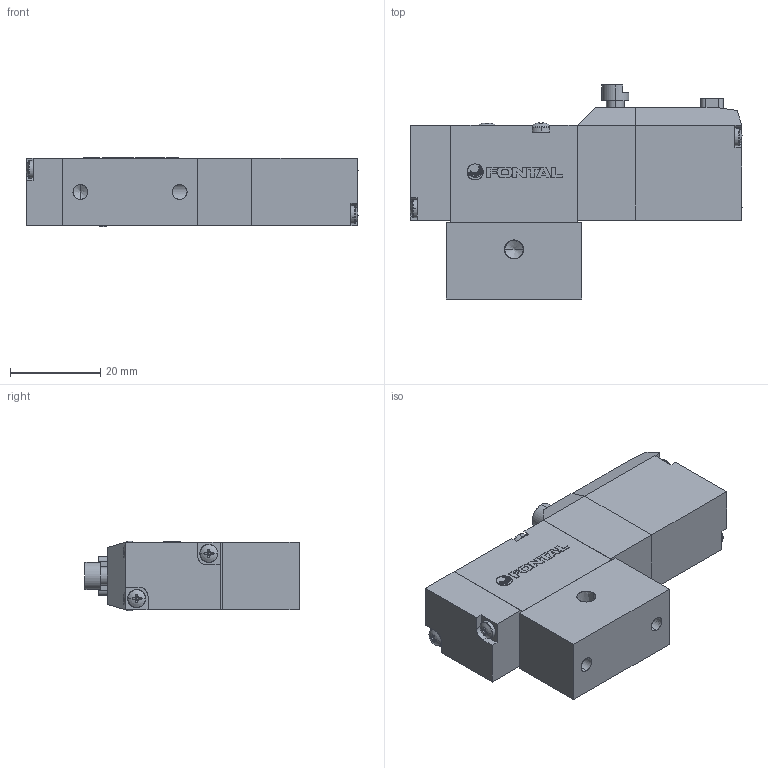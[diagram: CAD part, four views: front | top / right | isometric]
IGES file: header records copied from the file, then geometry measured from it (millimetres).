
Start section: SolidWorks IGES file using analytic representation for surfaces
Global section: file name: D:\Custom\3D繪製\PC\PCL5\PCL245#-M5-#-U-#.IGS,1; native system: 5HSolidWorks 2014; preprocessor: SolidWorks 2014; author: Chieh_Lu; date: 150916.143104; units: millimetre
Bounding box: 73.64 x 47.5 x 15.4 mm (x, y, z)
Surface area: 13531.9 mm2 (no closed solid volume)
Topology: 0 solids, 0 shells, 481 faces, 4386 edges, 4364 vertices
Faces by surface type: bspline 298, revolution 183
